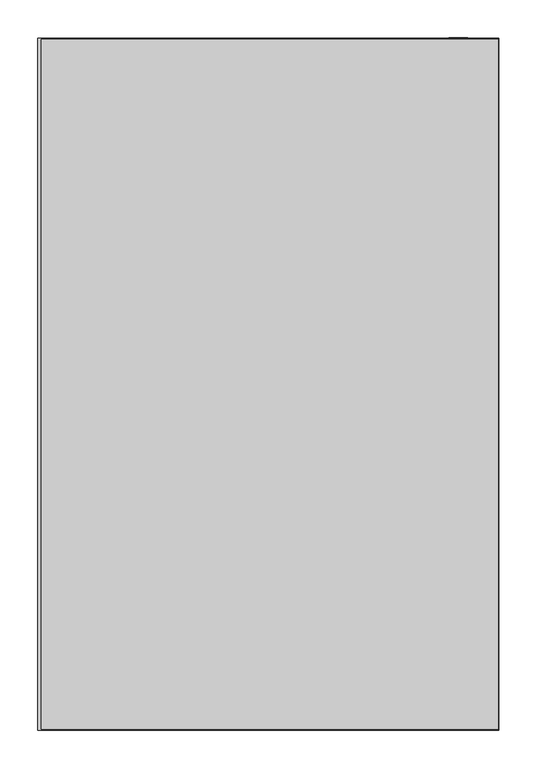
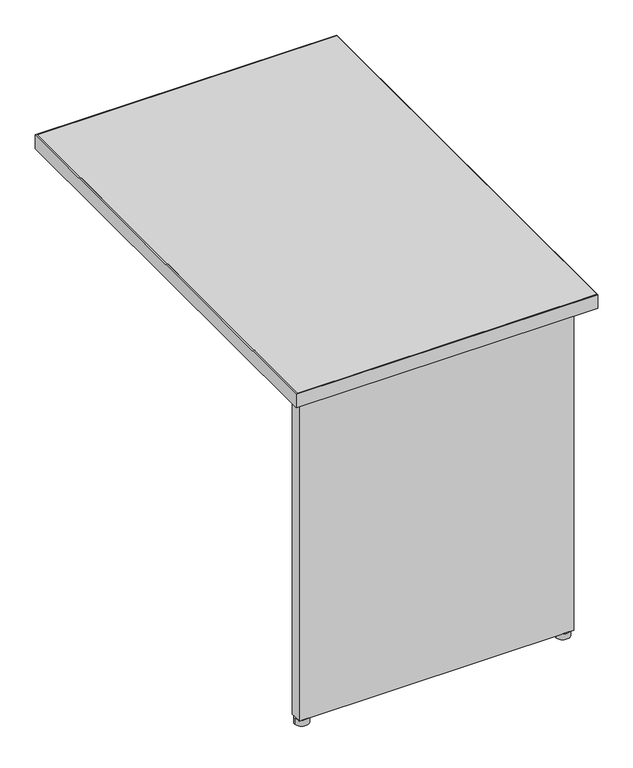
"""IFC4 building model written with IfcOpenShell, lengths in millimetres: furniture geometry, Steelcase - Kick Freestanding - Desk - Return - Partial Height Modesty Panel : 24D x 36W - Right."""

from ifc_helpers import new_model, si_unit, point, frame, frame_2d, origin, origin_with_axes, place, context, project, spatial, polyline, circle_curve, trimmed, segment, composite_curve, outline, extrude, source, transform, mapped, element, save


def furniture_8e807904(model_context):
    return source(origin(), model_context, "Body", "SweptSolid", [
        extrude(outline(composite_curve([segment(trimmed(circle_curve(frame_2d((2107.4714425, -1435.8145152)), 13.97), [point((2121.4414425, -1435.8145152))], [point((2093.5014425, -1435.8145152))], False, "CARTESIAN"), True, "CONTINUOUS"), segment(trimmed(circle_curve(frame_2d((2107.4714425, -1435.8145152)), 13.97), [point((2093.5014425, -1435.8145152))], [point((2121.4414425, -1435.8145152))], False, "CARTESIAN"), True, "CONTINUOUS")], self_intersect=False)), origin_with_axes(), (0.0, 0.0, 1.0), 12.7),
        extrude(outline(composite_curve([segment(trimmed(circle_curve(frame_2d((1579.6594425, -1435.8145152)), 13.97), [point((1593.6294425, -1435.8145152))], [point((1565.6894425, -1435.8145152))], False, "CARTESIAN"), True, "CONTINUOUS"), segment(trimmed(circle_curve(frame_2d((1579.6594425, -1435.8145152)), 13.97), [point((1565.6894425, -1435.8145152))], [point((1593.6294425, -1435.8145152))], False, "CARTESIAN"), True, "CONTINUOUS")], self_intersect=False)), origin_with_axes(), (0.0, 0.0, 1.0), 12.7),
        extrude(outline(polyline([(2122.7114425, -1423.2669152), (2122.7114425, -1447.7525098), (1568.2294473, -1447.7525098), (1568.2294473, -1423.2669041), (1691.2670317, -1423.2669041), (1691.2670317, -1445.6951136), (1790.9874347, -1445.6951136), (1790.9874347, -1423.2669041), (1899.7248382, -1423.2669041), (1899.7248382, -1445.6951136), (1999.4452412, -1445.6951136), (1999.4452412, -1423.2669152), (2122.7114425, -1423.2669152)])), frame((0.0, 0.0, 12.7), z_axis=(0.0, 0.0, 1.0), x_axis=(1.0, 0.0, 0.0)), (0.0, 0.0, 1.0), 682.244),
        extrude(outline(polyline([(2097.3114424, -546.0525152), (2122.7114425, -546.0525152), (2122.7114425, -1423.2669152), (2097.3114424, -1423.2669152), (2097.3114424, -546.0525152)])), frame((0.0, 0.0, 390.144), z_axis=(0.0, 0.0, 1.0), x_axis=(1.0, 0.0, 0.0)), (0.0, 0.0, 1.0), 304.8),
        extrude(outline(polyline([(1558.5012257, -548.0845152), (2162.8688425, -548.0845152), (2162.8688425, -1459.9445152), (1558.5012257, -1459.9445152), (1558.5012257, -548.0845152)])), frame((0.0, 0.0, 694.944), z_axis=(0.0, 0.0, 1.0), x_axis=(1.0, 0.0, 0.0)), (0.0, 0.0, 1.0), 28.956),
        extrude(outline(polyline([(1554.2594425, -546.8145152), (2163.8594425, -546.8145152), (2163.8594425, -1461.2145152), (1554.2594425, -1461.2145152), (1554.2594425, -546.8145152)]), holes=[polyline([(1558.5012257, -548.0845152), (1558.5012257, -1459.9445152), (2162.8688425, -1459.9445152), (2162.8688425, -548.0845152), (1558.5012257, -548.0845152)])]), frame((0.0, 0.0, 694.944), z_axis=(0.0, 0.0, 1.0), x_axis=(1.0, 0.0, 0.0)), (0.0, 0.0, 1.0), 28.956),
    ])


if __name__ == "__main__":
    model = new_model("IFC4")
    model_context = context("Model", 3, world=origin())
    ifc_project = project(units=[si_unit("LENGTHUNIT", "METRE", prefix="MILLI")], contexts=[model_context])
    site = spatial("IfcSite", under=ifc_project)
    building = spatial("IfcBuilding", under=site)
    placement = place(None, origin())
    furniture_shape = furniture_8e807904(model_context)
    element("IfcFurniture", 1, ObjectType="Steelcase - Kick Freestanding - Desk - Return - Partial Height Modesty Panel : 24D x 36W - Right", at=placement, inside=building, context=model_context, shape_type="MappedRepresentation", body=[
        mapped(furniture_shape, transform((0.0, 0.0, 0.0), x_axis=(1.0, 0.0, 0.0), y_axis=(0.0, 1.0, 0.0), z_axis=(0.0, 0.0, 1.0))),
    ])
    save(model, "model.ifc")
